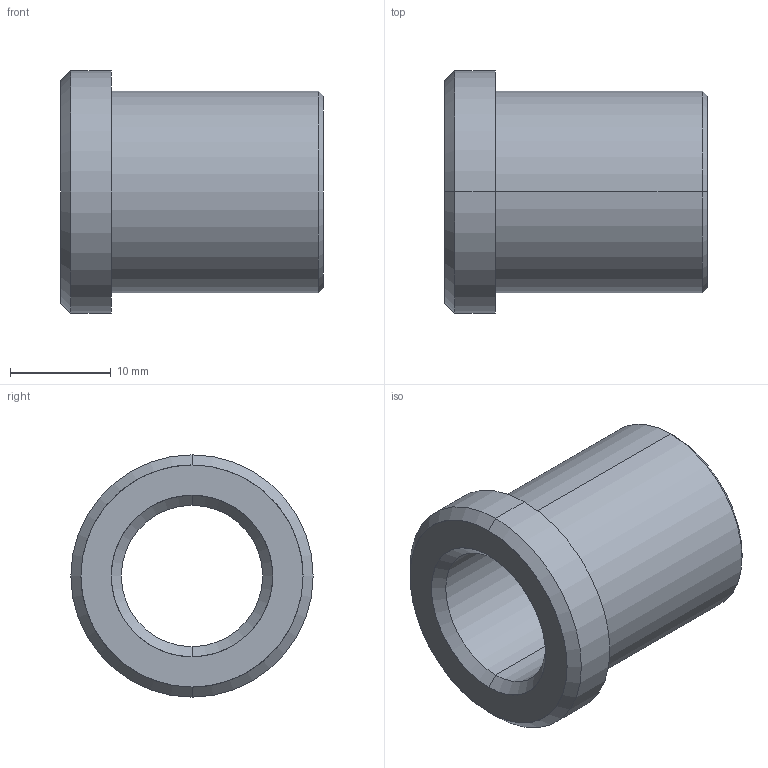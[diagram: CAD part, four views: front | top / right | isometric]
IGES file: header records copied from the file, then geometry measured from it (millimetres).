
Start section: START RECORD GO HERE.
Global section: file name: 353-14X26.igs; native system: DASSAULT SYSTEMES CATIA V5 R20 - www.3ds.com; preprocessor: CATIA Version 5 Release 20 ; author: Utente; organization: NB04-ASUS; date: 20210421.141818; units: millimetre
Bounding box: 26 x 24 x 24 mm (x, y, z)
Surface area: 3329.8 mm2 (no closed solid volume)
Topology: 0 solids, 0 shells, 17 faces, 108 edges, 108 vertices
Faces by surface type: revolution 14, plane 3
